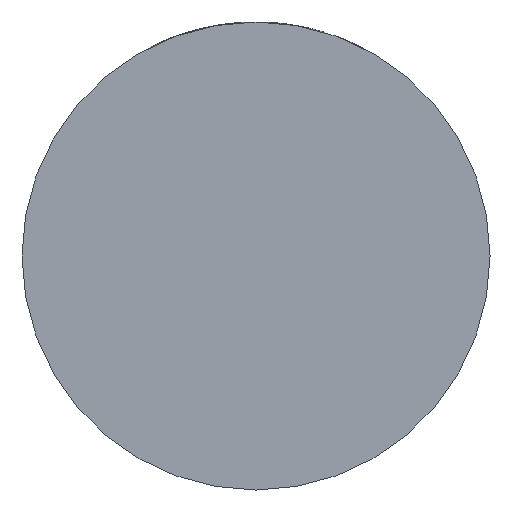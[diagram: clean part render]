
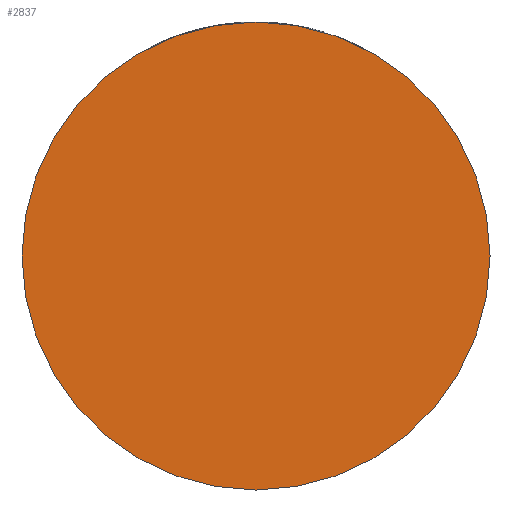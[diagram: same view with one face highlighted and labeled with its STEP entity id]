
A CAD part, front view. The second image highlights one B-rep face of the part: STEP entity #2837.
In plain terms, the highlighted planar face has unit normal (0, -1, 0).
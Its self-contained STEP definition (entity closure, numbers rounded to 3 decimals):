
#21 = CIRCLE ( 'NONE', #1604, 74. ) ;
#425 = ORIENTED_EDGE ( 'NONE', *, *, #1330, .T. ) ;
#816 = DIRECTION ( 'NONE',  ( 0., -1., 0. ) ) ;
#833 = VERTEX_POINT ( 'NONE', #1026 ) ;
#888 = ORIENTED_EDGE ( 'NONE', *, *, #1012, .T. ) ;
#1012 = EDGE_CURVE ( 'NONE', #2564, #833, #21, .T. ) ;
#1014 = AXIS2_PLACEMENT_3D ( 'NONE', #2122, #3576, #4260 ) ;
#1026 = CARTESIAN_POINT ( 'NONE',  ( -74., -60., 0. ) ) ;
#1060 = PLANE ( 'NONE',  #1014 ) ;
#1184 = CARTESIAN_POINT ( 'NONE',  ( 0., -60., 0. ) ) ;
#1330 = EDGE_CURVE ( 'NONE', #833, #2564, #3174, .T. ) ;
#1454 = EDGE_LOOP ( 'NONE', ( #425, #888 ) ) ;
#1604 = AXIS2_PLACEMENT_3D ( 'NONE', #1184, #2626, #4028 ) ;
#2122 = CARTESIAN_POINT ( 'NONE',  ( 0., -60., 0. ) ) ;
#2232 = CARTESIAN_POINT ( 'NONE',  ( 0., -60., 0. ) ) ;
#2501 = FACE_OUTER_BOUND ( 'NONE', #1454, .T. ) ;
#2564 = VERTEX_POINT ( 'NONE', #4256 ) ;
#2626 = DIRECTION ( 'NONE',  ( 0., -1., 0. ) ) ;
#2837 = ADVANCED_FACE ( 'NONE', ( #2501 ), #1060, .T. ) ;
#3174 = CIRCLE ( 'NONE', #4542, 74. ) ;
#3576 = DIRECTION ( 'NONE',  ( 0., -1., 0. ) ) ;
#4028 = DIRECTION ( 'NONE',  ( 1., 0., 0. ) ) ;
#4159 = DIRECTION ( 'NONE',  ( 1., 0., 0. ) ) ;
#4256 = CARTESIAN_POINT ( 'NONE',  ( 74., -60., 0. ) ) ;
#4260 = DIRECTION ( 'NONE',  ( 1., 0., 0. ) ) ;
#4542 = AXIS2_PLACEMENT_3D ( 'NONE', #2232, #816, #4159 ) ;
